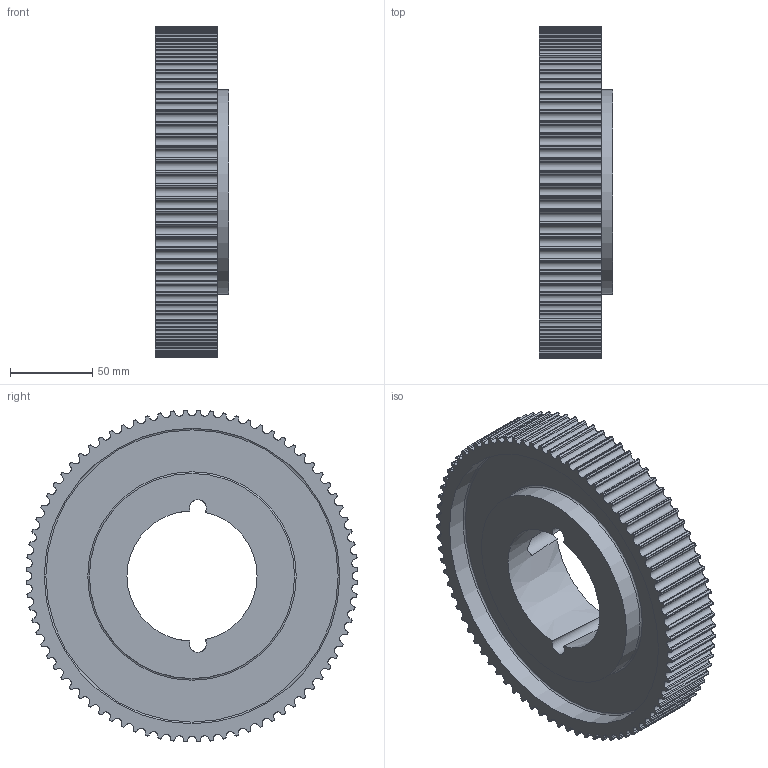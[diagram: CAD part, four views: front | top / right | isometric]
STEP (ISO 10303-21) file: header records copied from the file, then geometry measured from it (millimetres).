
FILE_DESCRIPTION( ( 'STEP AP203' ), '1' );
FILE_NAME( 'C:/Users/Stangenbergd/Documents/CAD_Step/1/17477240.stp', '2020-09-13T17:58:12', ( 'License CC BY-ND 4.0' ), ( 'CADENAS' ), ' ', 'PARTsolutions', ' ' );
FILE_SCHEMA( ( 'CONFIG_CONTROL_DESIGN' ) );
Length unit declared in the file: millimetre
Products named in the file (1): _17477240
Bounding box: 45 x 202.21 x 202.21 mm (x, y, z)
Volume: 678538.1 mm3; surface area: 125192 mm2
Topology: 1 solids, 1 shells, 500 faces, 1481 edges, 986 vertices
Faces by surface type: cylinder 327, plane 166, torus 4, cone 3
Full cylindrical faces by diameter (mm): 125 x2, 180 x2
Entity records: 17040 total; most frequent: DIRECTION 3128, CARTESIAN_POINT 3005, ORIENTED_EDGE 2940, EDGE_CURVE 1470, AXIS2_PLACEMENT_3D 1164, VERTEX_POINT 985, LINE 800, VECTOR 800
